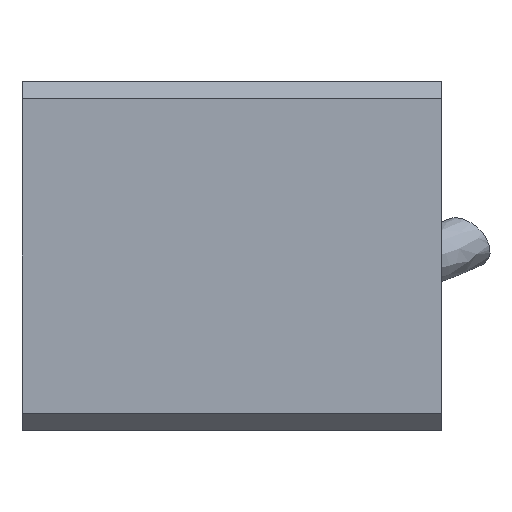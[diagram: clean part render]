
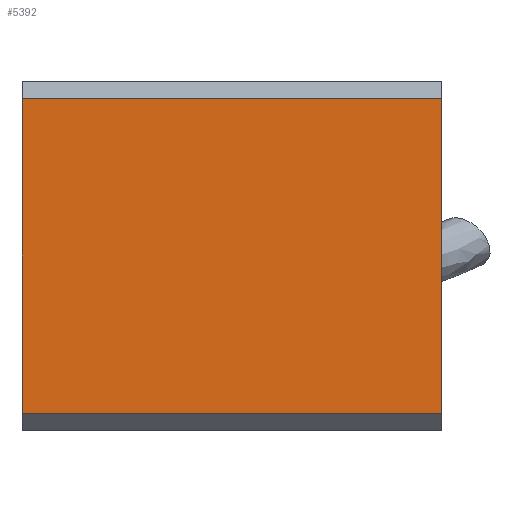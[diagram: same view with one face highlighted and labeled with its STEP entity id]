
A CAD part, front view. The second image highlights one B-rep face of the part: STEP entity #5392.
In plain terms, the highlighted planar face has unit normal (0, -1, 0).
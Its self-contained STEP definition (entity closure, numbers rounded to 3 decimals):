
#14 = DIRECTION ( 'NONE',  ( 1., 0., 0. ) ) ;
#87 = EDGE_LOOP ( 'NONE', ( #647, #4739, #3469, #1000 ) ) ;
#170 = VECTOR ( 'NONE', #9223, 1000. ) ;
#647 = ORIENTED_EDGE ( 'NONE', *, *, #5634, .T. ) ;
#683 = CARTESIAN_POINT ( 'NONE',  ( -36., -30., -27. ) ) ;
#894 = CARTESIAN_POINT ( 'NONE',  ( 36., -30., 30. ) ) ;
#1000 = ORIENTED_EDGE ( 'NONE', *, *, #5231, .F. ) ;
#1378 = VECTOR ( 'NONE', #14, 1000. ) ;
#1624 = DIRECTION ( 'NONE',  ( 0., 0., 1. ) ) ;
#2086 = VECTOR ( 'NONE', #8290, 1000. ) ;
#2321 = CARTESIAN_POINT ( 'NONE',  ( 36., -30., 30. ) ) ;
#2513 = CARTESIAN_POINT ( 'NONE',  ( 36., -30., 27. ) ) ;
#2814 = VERTEX_POINT ( 'NONE', #6080 ) ;
#3079 = VERTEX_POINT ( 'NONE', #683 ) ;
#3124 = LINE ( 'NONE', #2321, #4824 ) ;
#3271 = LINE ( 'NONE', #7169, #1378 ) ;
#3469 = ORIENTED_EDGE ( 'NONE', *, *, #4022, .F. ) ;
#3549 = AXIS2_PLACEMENT_3D ( 'NONE', #894, #5951, #1624 ) ;
#3639 = VERTEX_POINT ( 'NONE', #2513 ) ;
#3922 = CARTESIAN_POINT ( 'NONE',  ( -36., -30., 27. ) ) ;
#3990 = LINE ( 'NONE', #4951, #170 ) ;
#4022 = EDGE_CURVE ( 'NONE', #3639, #2814, #3124, .T. ) ;
#4445 = PLANE ( 'NONE',  #3549 ) ;
#4496 = DIRECTION ( 'NONE',  ( 0., 0., -1. ) ) ;
#4739 = ORIENTED_EDGE ( 'NONE', *, *, #6391, .T. ) ;
#4824 = VECTOR ( 'NONE', #4496, 1000. ) ;
#4951 = CARTESIAN_POINT ( 'NONE',  ( -36., -30., 27. ) ) ;
#4959 = VERTEX_POINT ( 'NONE', #3922 ) ;
#5231 = EDGE_CURVE ( 'NONE', #4959, #3639, #3990, .T. ) ;
#5392 = ADVANCED_FACE ( 'NONE', ( #8024 ), #4445, .F. ) ;
#5634 = EDGE_CURVE ( 'NONE', #4959, #3079, #6155, .T. ) ;
#5951 = DIRECTION ( 'NONE',  ( 0., 1., 0. ) ) ;
#6080 = CARTESIAN_POINT ( 'NONE',  ( 36., -30., -27. ) ) ;
#6155 = LINE ( 'NONE', #8998, #2086 ) ;
#6391 = EDGE_CURVE ( 'NONE', #3079, #2814, #3271, .T. ) ;
#7169 = CARTESIAN_POINT ( 'NONE',  ( -36., -30., -27. ) ) ;
#8024 = FACE_OUTER_BOUND ( 'NONE', #87, .T. ) ;
#8290 = DIRECTION ( 'NONE',  ( 0., 0., -1. ) ) ;
#8998 = CARTESIAN_POINT ( 'NONE',  ( -36., -30., 30. ) ) ;
#9223 = DIRECTION ( 'NONE',  ( 1., 0., 0. ) ) ;
